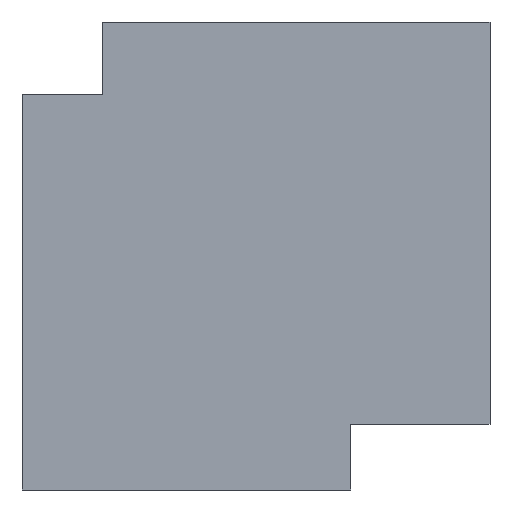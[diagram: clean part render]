
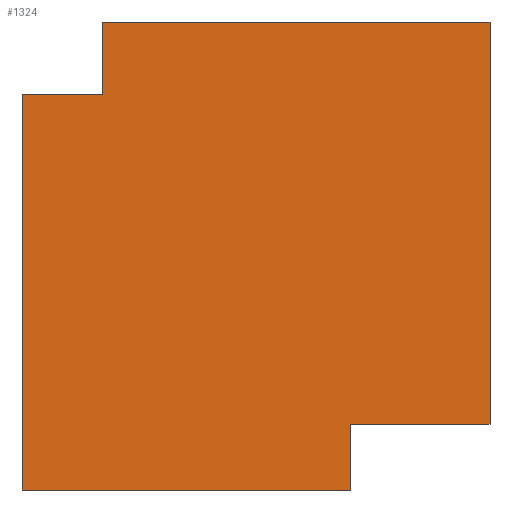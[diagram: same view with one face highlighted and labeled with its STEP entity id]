
A CAD part, left-side view. The second image highlights one B-rep face of the part: STEP entity #1324.
In plain terms, the highlighted planar face has unit normal (-1, 0, 0).
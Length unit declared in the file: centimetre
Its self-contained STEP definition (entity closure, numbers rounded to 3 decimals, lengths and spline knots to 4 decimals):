
#5 = VECTOR ( 'NONE', #1720, 100. ) ;
#72 = CARTESIAN_POINT ( 'NONE',  ( 0., 1000., 844.328 ) ) ;
#90 = CARTESIAN_POINT ( 'NONE',  ( 0., 297.2065, 0. ) ) ;
#115 = CARTESIAN_POINT ( 'NONE',  ( 0., 297.2065, 140.4243 ) ) ;
#124 = VERTEX_POINT ( 'NONE', #1137 ) ;
#137 = EDGE_CURVE ( 'NONE', #1667, #1517, #1106, .T. ) ;
#165 = CARTESIAN_POINT ( 'NONE',  ( 0., 0., 140.4243 ) ) ;
#173 = CARTESIAN_POINT ( 'NONE',  ( 0., 0., 140.4243 ) ) ;
#185 = VERTEX_POINT ( 'NONE', #90 ) ;
#187 = CARTESIAN_POINT ( 'NONE',  ( 0., 1000., 1000. ) ) ;
#200 = PLANE ( 'NONE',  #962 ) ;
#220 = FACE_OUTER_BOUND ( 'NONE', #660, .T. ) ;
#225 = ORIENTED_EDGE ( 'NONE', *, *, #1549, .T. ) ;
#249 = LINE ( 'NONE', #789, #395 ) ;
#268 = VECTOR ( 'NONE', #998, 100. ) ;
#279 = ORIENTED_EDGE ( 'NONE', *, *, #1237, .T. ) ;
#300 = ORIENTED_EDGE ( 'NONE', *, *, #1599, .F. ) ;
#331 = LINE ( 'NONE', #165, #268 ) ;
#355 = DIRECTION ( 'NONE',  ( 0., -1., 0. ) ) ;
#387 = LINE ( 'NONE', #1482, #1181 ) ;
#395 = VECTOR ( 'NONE', #1329, 100. ) ;
#521 = ORIENTED_EDGE ( 'NONE', *, *, #756, .T. ) ;
#544 = DIRECTION ( 'NONE',  ( 0., 0., 1. ) ) ;
#559 = VERTEX_POINT ( 'NONE', #1222 ) ;
#592 = VECTOR ( 'NONE', #1170, 100. ) ;
#604 = EDGE_CURVE ( 'NONE', #559, #1273, #249, .T. ) ;
#660 = EDGE_LOOP ( 'NONE', ( #1314, #225, #843, #300, #1704, #1009, #279, #521 ) ) ;
#712 = DIRECTION ( 'NONE',  ( 0., 0., -1. ) ) ;
#721 = LINE ( 'NONE', #874, #1511 ) ;
#756 = EDGE_CURVE ( 'NONE', #1094, #185, #1305, .T. ) ;
#762 = DIRECTION ( 'NONE',  ( 1., 0., 0. ) ) ;
#789 = CARTESIAN_POINT ( 'NONE',  ( 0., 828.8704, 844.328 ) ) ;
#797 = EDGE_CURVE ( 'NONE', #124, #559, #1065, .T. ) ;
#843 = ORIENTED_EDGE ( 'NONE', *, *, #137, .F. ) ;
#874 = CARTESIAN_POINT ( 'NONE',  ( 0., 1000., 1000. ) ) ;
#939 = CARTESIAN_POINT ( 'NONE',  ( 0., 1000., 0. ) ) ;
#962 = AXIS2_PLACEMENT_3D ( 'NONE', #187, #762, #1573 ) ;
#998 = DIRECTION ( 'NONE',  ( 0., -1., 0. ) ) ;
#1009 = ORIENTED_EDGE ( 'NONE', *, *, #604, .T. ) ;
#1065 = LINE ( 'NONE', #1737, #592 ) ;
#1094 = VERTEX_POINT ( 'NONE', #1596 ) ;
#1106 = LINE ( 'NONE', #1653, #1624 ) ;
#1118 = VERTEX_POINT ( 'NONE', #115 ) ;
#1119 = EDGE_CURVE ( 'NONE', #185, #1118, #387, .T. ) ;
#1137 = CARTESIAN_POINT ( 'NONE',  ( 0., 828.8704, 1000. ) ) ;
#1170 = DIRECTION ( 'NONE',  ( 0., 0., -1. ) ) ;
#1181 = VECTOR ( 'NONE', #544, 100. ) ;
#1198 = VECTOR ( 'NONE', #355, 100. ) ;
#1222 = CARTESIAN_POINT ( 'NONE',  ( 0., 828.8704, 844.328 ) ) ;
#1237 = EDGE_CURVE ( 'NONE', #1273, #1094, #1707, .T. ) ;
#1273 = VERTEX_POINT ( 'NONE', #72 ) ;
#1296 = DIRECTION ( 'NONE',  ( 0., -1., 0. ) ) ;
#1305 = LINE ( 'NONE', #939, #1198 ) ;
#1314 = ORIENTED_EDGE ( 'NONE', *, *, #1119, .T. ) ;
#1319 = CARTESIAN_POINT ( 'NONE',  ( 0., 0., 1000. ) ) ;
#1324 = ADVANCED_FACE ( 'NONE', ( #220 ), #200, .F. ) ;
#1329 = DIRECTION ( 'NONE',  ( 0., 1., 0. ) ) ;
#1428 = CARTESIAN_POINT ( 'NONE',  ( 0., 1000., 1000. ) ) ;
#1482 = CARTESIAN_POINT ( 'NONE',  ( 0., 297.2065, 0. ) ) ;
#1511 = VECTOR ( 'NONE', #1296, 100. ) ;
#1517 = VERTEX_POINT ( 'NONE', #173 ) ;
#1549 = EDGE_CURVE ( 'NONE', #1118, #1517, #331, .T. ) ;
#1573 = DIRECTION ( 'NONE',  ( 0., 0., -1. ) ) ;
#1596 = CARTESIAN_POINT ( 'NONE',  ( 0., 1000., 0. ) ) ;
#1599 = EDGE_CURVE ( 'NONE', #124, #1667, #721, .T. ) ;
#1624 = VECTOR ( 'NONE', #712, 100. ) ;
#1653 = CARTESIAN_POINT ( 'NONE',  ( 0., 0., 1000. ) ) ;
#1667 = VERTEX_POINT ( 'NONE', #1319 ) ;
#1704 = ORIENTED_EDGE ( 'NONE', *, *, #797, .T. ) ;
#1707 = LINE ( 'NONE', #1428, #5 ) ;
#1720 = DIRECTION ( 'NONE',  ( 0., 0., -1. ) ) ;
#1737 = CARTESIAN_POINT ( 'NONE',  ( 0., 828.8704, 844.328 ) ) ;
